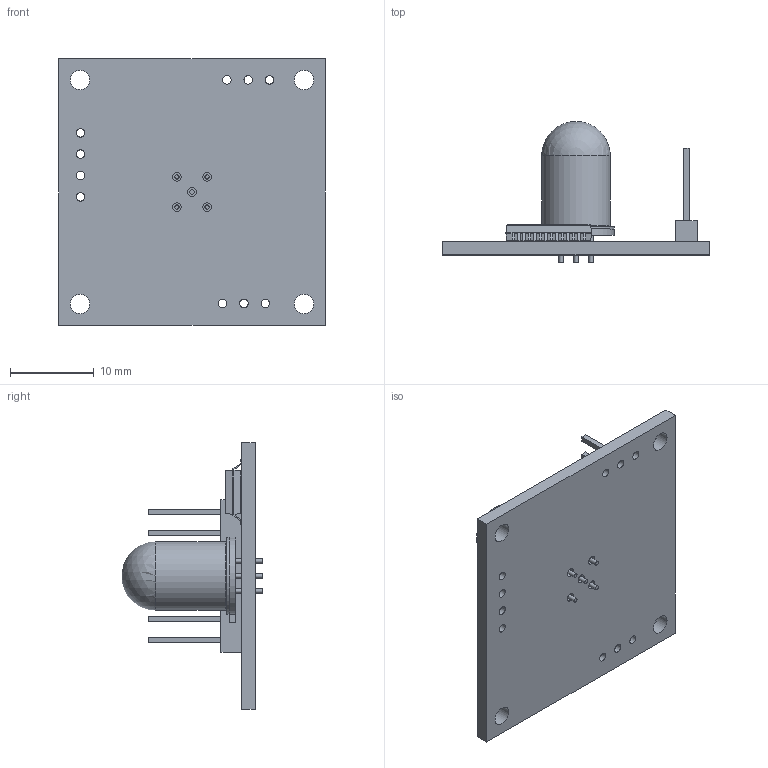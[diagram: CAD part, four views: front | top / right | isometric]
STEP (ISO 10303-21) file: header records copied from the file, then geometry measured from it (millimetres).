
FILE_DESCRIPTION (( 'STEP AP214' ), '1' );
FILE_NAME ('0729-1753-99.STEP', '2024-08-07T13:59:45', ( '' ), ( '' ), 'SwSTEP 2.0', 'SolidWorks 2024', '' );
FILE_SCHEMA (( 'AUTOMOTIVE_DESIGN' ));
Length unit declared in the file: inch
Products named in the file (1): 0729-1753-99
Bounding box: 31.75 x 16.77 x 31.75 mm (x, y, z)
Volume: 1967.2 mm3; surface area: 3744.8 mm2
Topology: 40 solids, 40 shells, 507 faces, 1235 edges, 818 vertices
Faces by surface type: plane 367, cylinder 134, sphere 2, torus 2, cone 2
Full cylindrical faces by diameter (mm): 0.508 x9, 0.663 x1, 1.016 x15, 1.778 x8, 2.286 x4, 7.62 x1, 7.666 x1, 8.191 x1, 9.144 x1
Entity records: 21589 total; most frequent: CARTESIAN_POINT 2514, DIRECTION 2440, ORIENTED_EDGE 2350, EDGE_CURVE 1175, LINE 910, VECTOR 910, VERTEX_POINT 807, AXIS2_PLACEMENT_3D 765
